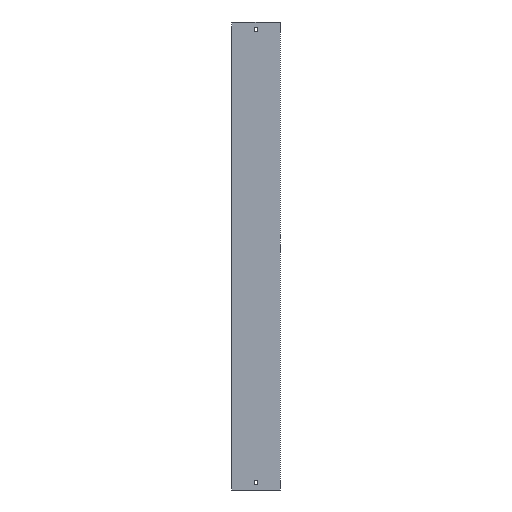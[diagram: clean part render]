
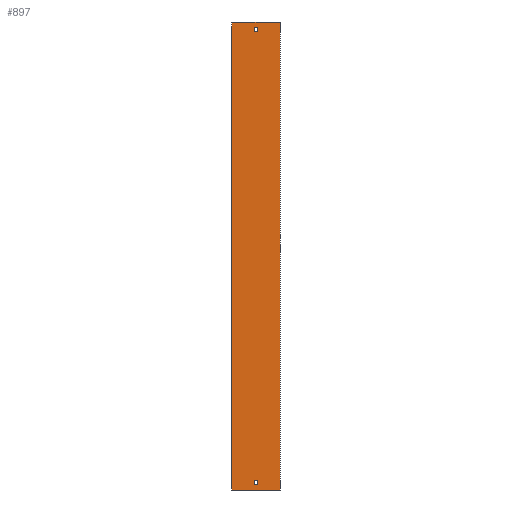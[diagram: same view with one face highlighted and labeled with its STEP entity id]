
A CAD part, front view. The second image highlights one B-rep face of the part: STEP entity #897.
In plain terms, the highlighted planar face has unit normal (0, -1, 0).
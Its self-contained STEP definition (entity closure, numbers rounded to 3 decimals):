
#13 = CARTESIAN_POINT ( 'NONE',  ( -52., 0., 500. ) ) ;
#17 = FACE_BOUND ( 'NONE', #1217, .T. ) ;
#29 = VECTOR ( 'NONE', #1216, 1000. ) ;
#56 = VECTOR ( 'NONE', #644, 1000. ) ;
#68 = ORIENTED_EDGE ( 'NONE', *, *, #81, .T. ) ;
#77 = DIRECTION ( 'NONE',  ( 0., 0., -1. ) ) ;
#81 = EDGE_CURVE ( 'NONE', #507, #1220, #735, .T. ) ;
#126 = LINE ( 'NONE', #1557, #1604 ) ;
#142 = ORIENTED_EDGE ( 'NONE', *, *, #419, .F. ) ;
#143 = LINE ( 'NONE', #150, #552 ) ;
#145 = EDGE_CURVE ( 'NONE', #1479, #717, #252, .T. ) ;
#148 = CARTESIAN_POINT ( 'NONE',  ( -52., 0., -500. ) ) ;
#150 = CARTESIAN_POINT ( 'NONE',  ( 52., 0., 500. ) ) ;
#160 = VECTOR ( 'NONE', #1241, 1000. ) ;
#176 = ORIENTED_EDGE ( 'NONE', *, *, #262, .T. ) ;
#177 = CARTESIAN_POINT ( 'NONE',  ( 3.25, 0., 488. ) ) ;
#178 = LINE ( 'NONE', #1611, #29 ) ;
#185 = EDGE_CURVE ( 'NONE', #1627, #507, #402, .T. ) ;
#189 = ORIENTED_EDGE ( 'NONE', *, *, #1228, .F. ) ;
#252 = LINE ( 'NONE', #540, #56 ) ;
#262 = EDGE_CURVE ( 'NONE', #1018, #1627, #178, .T. ) ;
#267 = ORIENTED_EDGE ( 'NONE', *, *, #145, .F. ) ;
#307 = EDGE_LOOP ( 'NONE', ( #68, #1441, #176, #614 ) ) ;
#336 = CARTESIAN_POINT ( 'NONE',  ( 3.25, 0., 488. ) ) ;
#350 = VECTOR ( 'NONE', #77, 1000. ) ;
#374 = LINE ( 'NONE', #476, #1359 ) ;
#402 = LINE ( 'NONE', #1679, #573 ) ;
#419 = EDGE_CURVE ( 'NONE', #1619, #1479, #609, .T. ) ;
#426 = EDGE_CURVE ( 'NONE', #991, #860, #869, .T. ) ;
#463 = VECTOR ( 'NONE', #986, 1000. ) ;
#469 = CARTESIAN_POINT ( 'NONE',  ( -3.25, 0., 488. ) ) ;
#476 = CARTESIAN_POINT ( 'NONE',  ( -3.25, 0., 488. ) ) ;
#492 = AXIS2_PLACEMENT_3D ( 'NONE', #931, #671, #1426 ) ;
#507 = VERTEX_POINT ( 'NONE', #1001 ) ;
#521 = VECTOR ( 'NONE', #1284, 1000. ) ;
#529 = ORIENTED_EDGE ( 'NONE', *, *, #594, .F. ) ;
#540 = CARTESIAN_POINT ( 'NONE',  ( -3.25, 0., 479. ) ) ;
#552 = VECTOR ( 'NONE', #802, 1000. ) ;
#573 = VECTOR ( 'NONE', #668, 1000. ) ;
#593 = CARTESIAN_POINT ( 'NONE',  ( 52., 0., 500. ) ) ;
#594 = EDGE_CURVE ( 'NONE', #651, #1074, #1046, .T. ) ;
#609 = LINE ( 'NONE', #469, #350 ) ;
#614 = ORIENTED_EDGE ( 'NONE', *, *, #185, .T. ) ;
#621 = ORIENTED_EDGE ( 'NONE', *, *, #625, .T. ) ;
#625 = EDGE_CURVE ( 'NONE', #651, #991, #126, .T. ) ;
#644 = DIRECTION ( 'NONE',  ( 1., 0., 0. ) ) ;
#651 = VERTEX_POINT ( 'NONE', #786 ) ;
#668 = DIRECTION ( 'NONE',  ( -1., 0., 0. ) ) ;
#671 = DIRECTION ( 'NONE',  ( 0., 1., 0. ) ) ;
#679 = VERTEX_POINT ( 'NONE', #177 ) ;
#708 = EDGE_CURVE ( 'NONE', #1220, #1018, #1610, .T. ) ;
#717 = VERTEX_POINT ( 'NONE', #949 ) ;
#735 = LINE ( 'NONE', #1369, #160 ) ;
#782 = FACE_OUTER_BOUND ( 'NONE', #1466, .T. ) ;
#786 = CARTESIAN_POINT ( 'NONE',  ( -52., 0., 500. ) ) ;
#802 = DIRECTION ( 'NONE',  ( 0., 0., -1. ) ) ;
#803 = CARTESIAN_POINT ( 'NONE',  ( -3.25, 0., -479. ) ) ;
#839 = LINE ( 'NONE', #336, #1579 ) ;
#860 = VERTEX_POINT ( 'NONE', #1517 ) ;
#861 = CARTESIAN_POINT ( 'NONE',  ( -52., 0., -500. ) ) ;
#869 = LINE ( 'NONE', #861, #463 ) ;
#897 = ADVANCED_FACE ( 'NONE', ( #782, #17, #1032 ), #1294, .F. ) ;
#931 = CARTESIAN_POINT ( 'NONE',  ( -52., 0., 500. ) ) ;
#949 = CARTESIAN_POINT ( 'NONE',  ( 3.25, 0., 479. ) ) ;
#957 = CARTESIAN_POINT ( 'NONE',  ( -3.25, 0., 479. ) ) ;
#971 = CARTESIAN_POINT ( 'NONE',  ( 3.25, 0., -479. ) ) ;
#986 = DIRECTION ( 'NONE',  ( 1., 0., 0. ) ) ;
#988 = ORIENTED_EDGE ( 'NONE', *, *, #1129, .F. ) ;
#991 = VERTEX_POINT ( 'NONE', #148 ) ;
#1001 = CARTESIAN_POINT ( 'NONE',  ( -3.25, 0., -488. ) ) ;
#1009 = CARTESIAN_POINT ( 'NONE',  ( -3.25, 0., 488. ) ) ;
#1018 = VERTEX_POINT ( 'NONE', #971 ) ;
#1032 = FACE_BOUND ( 'NONE', #307, .T. ) ;
#1046 = LINE ( 'NONE', #13, #521 ) ;
#1053 = DIRECTION ( 'NONE',  ( 0., 0., -1. ) ) ;
#1074 = VERTEX_POINT ( 'NONE', #593 ) ;
#1127 = DIRECTION ( 'NONE',  ( -1., 0., 0. ) ) ;
#1129 = EDGE_CURVE ( 'NONE', #717, #679, #839, .T. ) ;
#1216 = DIRECTION ( 'NONE',  ( 0., 0., -1. ) ) ;
#1217 = EDGE_LOOP ( 'NONE', ( #267, #142, #189, #988 ) ) ;
#1220 = VERTEX_POINT ( 'NONE', #1677 ) ;
#1228 = EDGE_CURVE ( 'NONE', #679, #1619, #374, .T. ) ;
#1241 = DIRECTION ( 'NONE',  ( 0., 0., 1. ) ) ;
#1243 = CARTESIAN_POINT ( 'NONE',  ( 3.25, 0., -488. ) ) ;
#1262 = ORIENTED_EDGE ( 'NONE', *, *, #1328, .F. ) ;
#1284 = DIRECTION ( 'NONE',  ( 1., 0., 0. ) ) ;
#1294 = PLANE ( 'NONE',  #492 ) ;
#1315 = DIRECTION ( 'NONE',  ( 1., 0., 0. ) ) ;
#1328 = EDGE_CURVE ( 'NONE', #1074, #860, #143, .T. ) ;
#1353 = DIRECTION ( 'NONE',  ( 0., 0., 1. ) ) ;
#1359 = VECTOR ( 'NONE', #1127, 1000. ) ;
#1369 = CARTESIAN_POINT ( 'NONE',  ( -3.25, 0., -488. ) ) ;
#1426 = DIRECTION ( 'NONE',  ( -1., 0., 0. ) ) ;
#1440 = VECTOR ( 'NONE', #1315, 1000. ) ;
#1441 = ORIENTED_EDGE ( 'NONE', *, *, #708, .T. ) ;
#1466 = EDGE_LOOP ( 'NONE', ( #1605, #1262, #529, #621 ) ) ;
#1479 = VERTEX_POINT ( 'NONE', #957 ) ;
#1517 = CARTESIAN_POINT ( 'NONE',  ( 52., 0., -500. ) ) ;
#1557 = CARTESIAN_POINT ( 'NONE',  ( -52., 0., 500. ) ) ;
#1579 = VECTOR ( 'NONE', #1353, 1000. ) ;
#1604 = VECTOR ( 'NONE', #1053, 1000. ) ;
#1605 = ORIENTED_EDGE ( 'NONE', *, *, #426, .T. ) ;
#1610 = LINE ( 'NONE', #803, #1440 ) ;
#1611 = CARTESIAN_POINT ( 'NONE',  ( 3.25, 0., -488. ) ) ;
#1619 = VERTEX_POINT ( 'NONE', #1009 ) ;
#1627 = VERTEX_POINT ( 'NONE', #1243 ) ;
#1677 = CARTESIAN_POINT ( 'NONE',  ( -3.25, 0., -479. ) ) ;
#1679 = CARTESIAN_POINT ( 'NONE',  ( -3.25, 0., -488. ) ) ;
